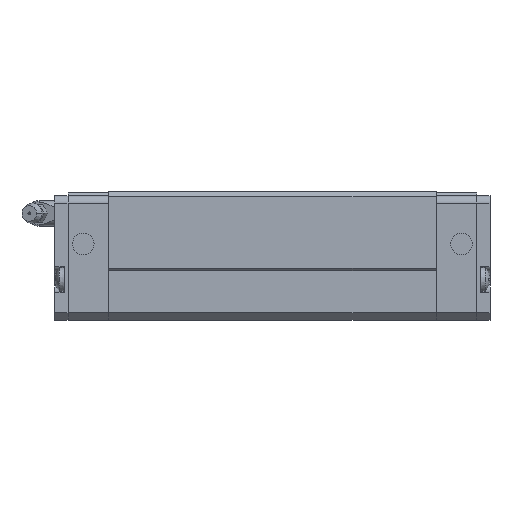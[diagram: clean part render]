
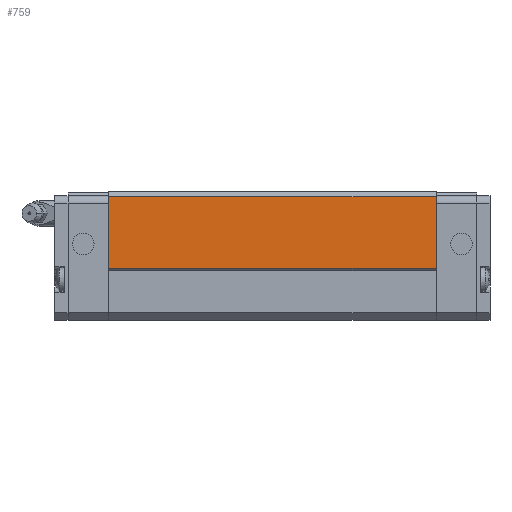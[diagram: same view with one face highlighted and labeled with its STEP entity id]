
A CAD part, front view. The second image highlights one B-rep face of the part: STEP entity #759.
In plain terms, the highlighted planar face has unit normal (0, -1, 0).
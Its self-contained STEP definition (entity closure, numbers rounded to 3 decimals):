
#698=CARTESIAN_POINT('POINT44',(150.,-43.,
   20.5));
#699=VERTEX_POINT('VERTEX44',#698);
#706=CARTESIAN_POINT('POINT45',(21.2,-43.,
   20.5));
#707=VERTEX_POINT('VERTEX45',#706);
#708=CARTESIAN_POINT('POS73',(21.2,-43.,
   20.5));
#709=DIRECTION('DIR108',(1.,0.,0.));
#710=VECTOR('VEC38',#709,1.);
#711=LINE('STRAIGHT38',#708,#710);
#712=EDGE_CURVE('EDGE70',#707,#699,#711,.T.);
#729=CARTESIAN_POINT('POINT46',(150.,-43.,
   48.5));
#730=VERTEX_POINT('VERTEX46',#729);
#731=CARTESIAN_POINT('POS76',(150.,-43.,
   48.5));
#732=DIRECTION('DIR112',(0.,0.,1.));
#733=VECTOR('VEC40',#732,1.);
#734=LINE('STRAIGHT40',#731,#733);
#735=EDGE_CURVE('EDGE72',#699,#730,#734,.T.);
#736=ORIENTED_EDGE('COEDGE127',*,*,#735,.T.);
#737=CARTESIAN_POINT('POINT47',(21.2,-43.,
   48.5));
#738=VERTEX_POINT('VERTEX47',#737);
#739=CARTESIAN_POINT('POS77',(21.2,-43.,
   48.5));
#740=DIRECTION('DIR113',(1.,0.,0.));
#741=VECTOR('VEC41',#740,1.);
#742=LINE('STRAIGHT41',#739,#741);
#743=EDGE_CURVE('EDGE73',#738,#730,#742,.T.);
#744=ORIENTED_EDGE('COEDGE128',*,*,#743,.F.);
#745=CARTESIAN_POINT('POS78',(21.2,-43.,
   48.5));
#746=DIRECTION('DIR114',(0.,0.,-1.));
#747=VECTOR('VEC42',#746,1.);
#748=LINE('STRAIGHT42',#745,#747);
#749=EDGE_CURVE('EDGE74',#738,#707,#748,.T.);
#750=ORIENTED_EDGE('COEDGE129',*,*,#749,.T.);
#751=ORIENTED_EDGE('COEDGE130',*,*,#712,.T.);
#752=EDGE_LOOP('NONE',(#736,#744,#750,#751));
#753=FACE_BOUND('LOOP1',#752,.T.);
#754=CARTESIAN_POINT('POS79',(21.2,-43.,
   20.5));
#755=DIRECTION('DIR115',(0.,-1.,0.));
#756=DIRECTION('DIR116',(1.,0.,0.));
#757=AXIS2_PLACEMENT_3D('AXIS37',#754,#755,#756);
#758=PLANE('PLANE8',#757);
#759=ADVANCED_FACE('FACE34',(#753),#758,.T.);
